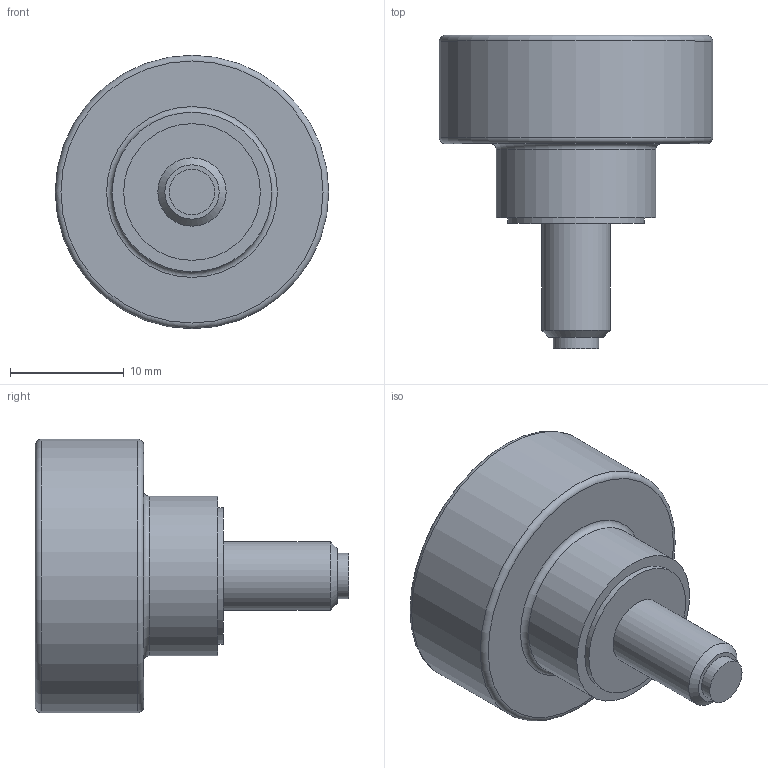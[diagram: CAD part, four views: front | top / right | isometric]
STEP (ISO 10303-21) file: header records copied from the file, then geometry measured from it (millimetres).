
FILE_DESCRIPTION( ( 'STEP AP203' ), '1' );
FILE_NAME( 'C:/Temp/Ganter_Step_05_03_2020/data/2_2/gn_421_10/Hollow knurled knob, with tip GN 421.10-M6-10-MS.stp', '2020-03-05T12:25:32', ( 'License CC BY-ND 4.0' ), ( 'CADENAS' ), ' ', 'PARTsolutions', ' ' );
FILE_SCHEMA( ( 'CONFIG_CONTROL_DESIGN' ) );
Length unit declared in the file: millimetre
Products named in the file (1): _Hollow knurled knob, with tip GN 421.10-M6-10-MS
Bounding box: 24 x 27.5 x 24 mm (x, y, z)
Volume: 3776 mm3; surface area: 2525.3 mm2
Topology: 1 solids, 1 shells, 19 faces, 30 edges, 19 vertices
Faces by surface type: plane 8, cylinder 7, torus 3, cone 1
Full cylindrical faces by diameter (mm): 4 x1, 6 x1, 10 x1, 12 x1, 14 x1, 20 x1, 24 x1
Entity records: 418 total; most frequent: DIRECTION 76, CARTESIAN_POINT 56, AXIS2_PLACEMENT_3D 38, EDGE_LOOP 36, ORIENTED_EDGE 36, FACE_OUTER_BOUND 29, ADVANCED_FACE 19, EDGE_CURVE 18
